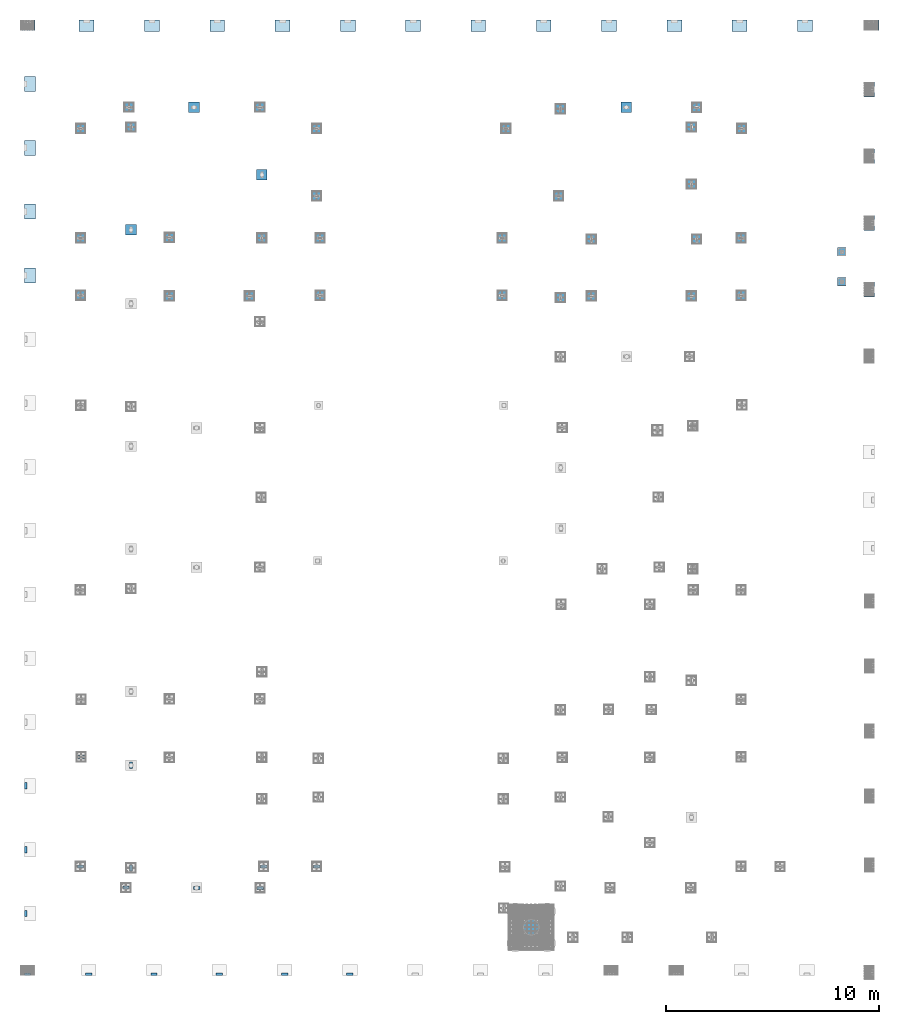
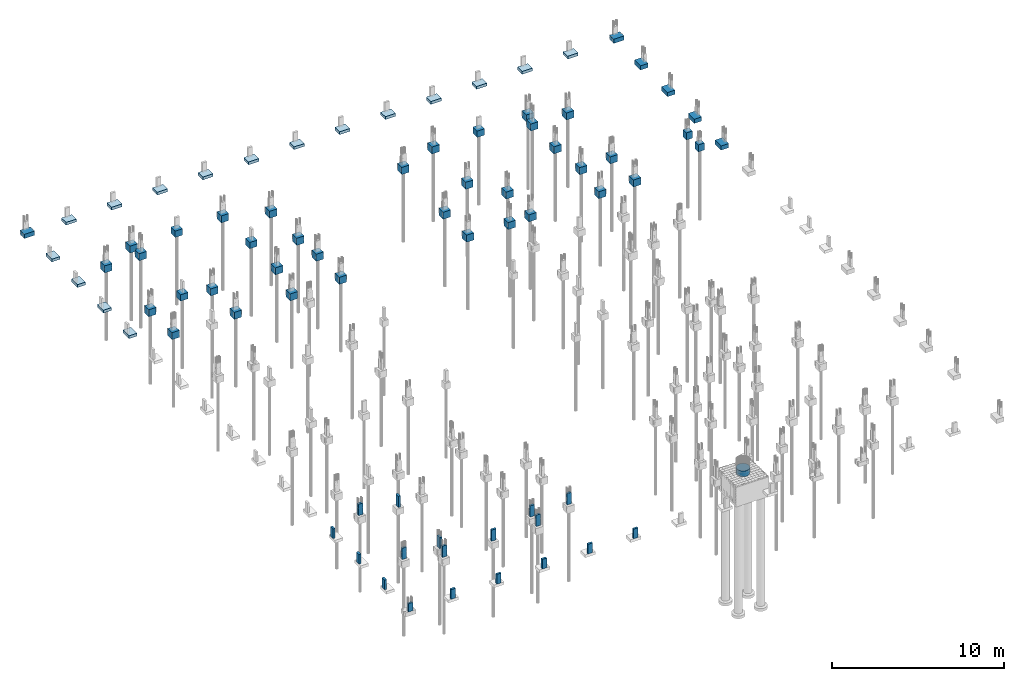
# One storey, part 2 of 119: 58 footings, 19 columns.
"""IFC4 building model written with IfcOpenShell, lengths in centimetres."""

from ifc_helpers import new_model, si_unit, derived_unit, frame, origin_with_axes, origin_2d_with_axis, place, context, project, spatial, rectangle, circle, extrude, faceted_brep, material, element, save


model = new_model("IFC4")

# Units and contexts
model_context = context("Model", 3, precision=1e-05, world=origin_with_axes(), identifier="Body")
ifc_project = project(units=[si_unit("LENGTHUNIT", "METRE", prefix="CENTI"), si_unit("VOLUMEUNIT", "CUBIC_METRE"), si_unit("AREAUNIT", "SQUARE_METRE"), si_unit("POWERUNIT", "WATT"), si_unit("LUMINOUSFLUXUNIT", "LUMEN"), si_unit("ELECTRICCURRENTUNIT", "AMPERE"), si_unit("PRESSUREUNIT", "PASCAL", prefix="KILO"), si_unit("MASSUNIT", "GRAM", prefix="KILO"), si_unit("PLANEANGLEUNIT", "RADIAN"), derived_unit("VOLUMETRICFLOWRATEUNIT", [(si_unit("LENGTHUNIT", "METRE"), 3), (si_unit("TIMEUNIT", "SECOND"), -1)])], contexts=[model_context])

# Site, building, storey
site_placement = place(None, frame((-4000.0, 0.0, 0.0), z_axis=(0.0, 0.0, 1.0), x_axis=(1.0, 0.0, 0.0)))
site = spatial("IfcSite", under=ifc_project, at=site_placement, Name="PADRÃO")
building_placement = place(site_placement, frame((0.0, 0.0, -14.0)))
building = spatial("IfcBuilding", under=site, at=building_placement, Name="CRECHE PRÉ-ESCOLA TIPO 2")
storey_placement = place(building_placement, origin_with_axes())
storey = spatial("IfcBuildingStorey", under=building, at=storey_placement, Name="FUNDAÇÃO", CompositionType="ELEMENT", Elevation=-14.0)

# Footings
ifc_material = material(Name="Concreto")
footing_1_placement = place(storey_placement, frame((16.5, 4470.5, -59.0), z_axis=(0.0, 0.0, 1.0), x_axis=(1.0, 0.0, 0.0)))
element("IfcFooting", 1, at=footing_1_placement, inside=storey, material=ifc_material, Name="P1", PredefinedType="PAD_FOOTING", context=model_context, shape_type="SolidModel", body=[
    faceted_brep([(35.0, 25.0, -30.0), (35.0, -25.0, -30.0), (-35.0, -25.0, -30.0), (-35.0, 25.0, -30.0), (-35.0, 25.0, 0.0), (-35.0, -25.0, 0.0), (35.0, -25.0, 0.0), (35.0, 25.0, 0.0)], [[[0, 1, 2, 3]], [[4, 5, 6, 7]], [[4, 3, 5]], [[3, 2, 5]], [[5, 2, 6]], [[2, 1, 6]], [[6, 1, 7]], [[1, 0, 7]], [[7, 0, 4]], [[0, 3, 4]]]),
])
for number, where, z_axis, x_axis, name in (
    (2, (2751.0, 4468.5, -69.0), (0.0, 0.0, 1.0), (1.0, 0.0, 0.0), "P10"),
    (3, (3058.0, 4468.12, -69.0), (0.0, 0.0, 1.0), (1.0, 0.0, 0.0), "P11"),
    (4, (3365.0, 4468.0, -69.0), (0.0, 0.0, 1.0), (1.0, 0.0, 0.0), "P12"),
    (5, (3672.0, 4468.0, -69.0), (0.0, 0.0, 1.0), (1.0, 0.0, 0.0), "P13"),
):
    element("IfcFooting", number, at=place(storey_placement, frame(where, z_axis=z_axis, x_axis=x_axis)), inside=storey, material=ifc_material, Name=name, PredefinedType="PAD_FOOTING", context=model_context, shape_type="SolidModel", body=[
        faceted_brep([(35.0, 27.0, -20.0), (35.0, -27.0, -20.0), (-35.0, -27.0, -20.0), (-35.0, 27.0, -20.0), (-35.0, 27.0, 0.0), (-35.0, -27.0, 0.0), (35.0, -27.0, 0.0), (35.0, 27.0, 0.0)], [[[0, 1, 2, 3]], [[4, 5, 6, 7]], [[4, 3, 5]], [[3, 2, 5]], [[5, 2, 6]], [[2, 1, 6]], [[6, 1, 7]], [[1, 0, 7]], [[7, 0, 4]], [[0, 3, 4]]]),
    ])
footing_2_placement = place(storey_placement, frame((3984.0, 4470.0, -59.0), z_axis=(0.0, 0.0, 1.0), x_axis=(1.0, 0.0, 0.0)))
element("IfcFooting", 6, at=footing_2_placement, inside=storey, material=ifc_material, Name="P14", PredefinedType="PAD_FOOTING", context=model_context, shape_type="SolidModel", body=[
    faceted_brep([(35.0, 25.0, -30.0), (35.0, -25.0, -30.0), (-35.0, -25.0, -30.0), (-35.0, 25.0, -30.0), (-35.0, 25.0, 0.0), (-35.0, -25.0, 0.0), (35.0, -25.0, 0.0), (35.0, 25.0, 0.0)], [[[0, 1, 2, 3]], [[4, 5, 6, 7]], [[4, 3, 5]], [[3, 2, 5]], [[5, 2, 6]], [[2, 1, 6]], [[6, 1, 7]], [[1, 0, 7]], [[7, 0, 4]], [[0, 3, 4]]]),
])
footing_3_placement = place(storey_placement, frame((28.5, 4194.5, -69.0), z_axis=(0.0, 0.0, 1.0), x_axis=(1.0, 0.0, 0.0)))
element("IfcFooting", 7, at=footing_3_placement, inside=storey, material=ifc_material, Name="P15", PredefinedType="PAD_FOOTING", context=model_context, shape_type="SolidModel", body=[
    faceted_brep([(-27.0, 35.0, -20.0), (27.0, 35.0, -20.0), (27.0, -35.0, -20.0), (-27.0, -35.0, -20.0), (-27.0, -35.0, 0.0), (27.0, -35.0, 0.0), (27.0, 35.0, 0.0), (-27.0, 35.0, 0.0)], [[[0, 1, 2, 3]], [[4, 5, 6, 7]], [[4, 3, 5]], [[3, 2, 5]], [[5, 2, 6]], [[2, 1, 6]], [[6, 1, 7]], [[1, 0, 7]], [[7, 0, 4]], [[0, 3, 4]]]),
])
footing_4_placement = place(storey_placement, frame((3974.0, 4168.5, -59.0), z_axis=(0.0, 0.0, 1.0), x_axis=(1.0, 0.0, 0.0)))
element("IfcFooting", 8, at=footing_4_placement, inside=storey, material=ifc_material, Name="P16", PredefinedType="PAD_FOOTING", context=model_context, shape_type="SolidModel", body=[
    faceted_brep([(25.0, -35.0, -30.0), (-25.0, -35.0, -30.0), (-25.0, 35.0, -30.0), (25.0, 35.0, -30.0), (25.0, 35.0, 0.0), (-25.0, 35.0, 0.0), (-25.0, -35.0, 0.0), (25.0, -35.0, 0.0)], [[[0, 1, 2, 3]], [[4, 5, 6, 7]], [[4, 3, 5]], [[3, 2, 5]], [[5, 2, 6]], [[2, 1, 6]], [[6, 1, 7]], [[1, 0, 7]], [[7, 0, 4]], [[0, 3, 4]]]),
])
footing_5_placement = place(storey_placement, frame((494.67, 4085.0, -80.0), z_axis=(0.0, 0.0, 1.0), x_axis=(1.0, 0.0, 0.0)))
element("IfcFooting", 9, at=footing_5_placement, inside=storey, material=ifc_material, Name="P17", context=model_context, shape_type="SolidModel", body=[
    faceted_brep([(-25.0, 25.0, -50.0), (25.0, 25.0, -50.0), (25.0, -25.0, -50.0), (-25.0, -25.0, -50.0), (-25.0, -25.0, 0.0), (25.0, -25.0, 0.0), (25.0, 25.0, 0.0), (-25.0, 25.0, 0.0)], [[[0, 1, 2, 3]], [[4, 5, 6, 7]], [[4, 3, 5]], [[3, 2, 5]], [[5, 2, 6]], [[2, 1, 6]], [[6, 1, 7]], [[1, 0, 7]], [[7, 0, 4]], [[0, 3, 4]]]),
])
footing_6_placement = place(storey_placement, frame((799.85, 4085.0, -80.0), z_axis=(0.0, 0.0, 1.0), x_axis=(1.0, 0.0, 0.0)))
element("IfcFooting", 10, at=footing_6_placement, inside=storey, material=ifc_material, Name="P18", context=model_context, shape_type="SolidModel", body=[
    faceted_brep([(25.0, -25.0, -45.0), (-25.0, -25.0, -45.0), (-25.0, 25.0, -45.0), (25.0, 25.0, -45.0), (25.0, 25.0, 0.0), (-25.0, 25.0, 0.0), (-25.0, -25.0, 0.0), (25.0, -25.0, 0.0)], [[[0, 1, 2, 3]], [[4, 5, 6, 7]], [[4, 3, 5]], [[3, 2, 5]], [[5, 2, 6]], [[2, 1, 6]], [[6, 1, 7]], [[1, 0, 7]], [[7, 0, 4]], [[0, 3, 4]]]),
])
footing_7_placement = place(storey_placement, frame((1109.71, 4085.0, -80.0), z_axis=(0.0, 0.0, 1.0), x_axis=(1.0, 0.0, 0.0)))
element("IfcFooting", 11, at=footing_7_placement, inside=storey, material=ifc_material, Name="P19", context=model_context, shape_type="SolidModel", body=[
    faceted_brep([(25.0, -25.0, -50.0), (-25.0, -25.0, -50.0), (-25.0, 25.0, -50.0), (25.0, 25.0, -50.0), (25.0, 25.0, 0.0), (-25.0, 25.0, 0.0), (-25.0, -25.0, 0.0), (25.0, -25.0, 0.0)], [[[0, 1, 2, 3]], [[4, 5, 6, 7]], [[4, 3, 5]], [[3, 2, 5]], [[5, 2, 6]], [[2, 1, 6]], [[6, 1, 7]], [[1, 0, 7]], [[7, 0, 4]], [[0, 3, 4]]]),
])
footing_8_placement = place(storey_placement, frame((295.0, 4468.5, -69.0), z_axis=(0.0, 0.0, 1.0), x_axis=(1.0, 0.0, 0.0)))
element("IfcFooting", 12, at=footing_8_placement, inside=storey, material=ifc_material, Name="P2", PredefinedType="PAD_FOOTING", context=model_context, shape_type="SolidModel", body=[
    faceted_brep([(35.0, 27.0, -20.0), (35.0, -27.0, -20.0), (-35.0, -27.0, -20.0), (-35.0, 27.0, -20.0), (-35.0, 27.0, 0.0), (-35.0, -27.0, 0.0), (35.0, -27.0, 0.0), (35.0, 27.0, 0.0)], [[[0, 1, 2, 3]], [[4, 5, 6, 7]], [[4, 3, 5]], [[3, 2, 5]], [[5, 2, 6]], [[2, 1, 6]], [[6, 1, 7]], [[1, 0, 7]], [[7, 0, 4]], [[0, 3, 4]]]),
])
footing_9_placement = place(storey_placement, frame((2522.5, 4077.02, -80.0), z_axis=(0.0, 0.0, 1.0), x_axis=(1.0, 0.0, 0.0)))
element("IfcFooting", 13, at=footing_9_placement, inside=storey, material=ifc_material, Name="P20", context=model_context, shape_type="SolidModel", body=[
    faceted_brep([(25.0, 25.0, -50.0), (25.0, -25.0, -50.0), (-25.0, -25.0, -50.0), (-25.0, 25.0, -50.0), (-25.0, 25.0, 0.0), (-25.0, -25.0, 0.0), (25.0, -25.0, 0.0), (25.0, 25.0, 0.0)], [[[0, 1, 2, 3]], [[4, 5, 6, 7]], [[4, 3, 5]], [[3, 2, 5]], [[5, 2, 6]], [[2, 1, 6]], [[6, 1, 7]], [[1, 0, 7]], [[7, 0, 4]], [[0, 3, 4]]]),
])
footing_10_placement = place(storey_placement, frame((2831.98, 4085.02, -80.0), z_axis=(0.0, 0.0, 1.0), x_axis=(1.0, 0.0, 0.0)))
element("IfcFooting", 14, at=footing_10_placement, inside=storey, material=ifc_material, Name="P21", context=model_context, shape_type="SolidModel", body=[
    faceted_brep([(25.0, -25.0, -45.0), (-25.0, -25.0, -45.0), (-25.0, 25.0, -45.0), (25.0, 25.0, -45.0), (25.0, 25.0, 0.0), (-25.0, 25.0, 0.0), (-25.0, -25.0, 0.0), (25.0, -25.0, 0.0)], [[[0, 1, 2, 3]], [[4, 5, 6, 7]], [[4, 3, 5]], [[3, 2, 5]], [[5, 2, 6]], [[2, 1, 6]], [[6, 1, 7]], [[1, 0, 7]], [[7, 0, 4]], [[0, 3, 4]]]),
])
for number, where, z_axis, x_axis, name in (
    (15, (3163.5, 4084.02, -80.0), (0.0, 0.0, 1.0), (1.0, 0.0, 0.0), "P22"),
    (16, (267.0, 3985.0, -80.0), (0.0, 0.0, 1.0), (1.0, 0.0, 0.0), "P23"),
):
    element("IfcFooting", number, at=place(storey_placement, frame(where, z_axis=z_axis, x_axis=x_axis)), inside=storey, material=ifc_material, Name=name, context=model_context, shape_type="SolidModel", body=[
        faceted_brep([(25.0, -25.0, -50.0), (-25.0, -25.0, -50.0), (-25.0, 25.0, -50.0), (25.0, 25.0, -50.0), (25.0, 25.0, 0.0), (-25.0, 25.0, 0.0), (-25.0, -25.0, 0.0), (25.0, -25.0, 0.0)], [[[0, 1, 2, 3]], [[4, 5, 6, 7]], [[4, 3, 5]], [[3, 2, 5]], [[5, 2, 6]], [[2, 1, 6]], [[6, 1, 7]], [[1, 0, 7]], [[7, 0, 4]], [[0, 3, 4]]]),
    ])
footing_11_placement = place(storey_placement, frame((503.67, 3991.5, -80.0), z_axis=(0.0, 0.0, 1.0), x_axis=(1.0, 0.0, 0.0)))
element("IfcFooting", 17, at=footing_11_placement, inside=storey, material=ifc_material, Name="P24", context=model_context, shape_type="SolidModel", body=[
    faceted_brep([(25.0, 25.0, -50.0), (25.0, -25.0, -50.0), (-25.0, -25.0, -50.0), (-25.0, 25.0, -50.0), (-25.0, 25.0, 0.0), (-25.0, -25.0, 0.0), (25.0, -25.0, 0.0), (25.0, 25.0, 0.0)], [[[0, 1, 2, 3]], [[4, 5, 6, 7]], [[4, 3, 5]], [[3, 2, 5]], [[5, 2, 6]], [[2, 1, 6]], [[6, 1, 7]], [[1, 0, 7]], [[7, 0, 4]], [[0, 3, 4]]]),
])
for number, where, z_axis, x_axis, name in (
    (18, (1376.84, 3985.0, -80.0), (0.0, 0.0, 1.0), (1.0, 0.0, 0.0), "P25"),
    (19, (2266.76, 3985.0, -80.0), (0.0, 0.0, 1.0), (1.0, 0.0, 0.0), "P26"),
):
    element("IfcFooting", number, at=place(storey_placement, frame(where, z_axis=z_axis, x_axis=x_axis)), inside=storey, material=ifc_material, Name=name, context=model_context, shape_type="SolidModel", body=[
        faceted_brep([(25.0, -25.0, -50.0), (-25.0, -25.0, -50.0), (-25.0, 25.0, -50.0), (25.0, 25.0, -50.0), (25.0, 25.0, 0.0), (-25.0, 25.0, 0.0), (-25.0, -25.0, 0.0), (25.0, -25.0, 0.0)], [[[0, 1, 2, 3]], [[4, 5, 6, 7]], [[4, 3, 5]], [[3, 2, 5]], [[5, 2, 6]], [[2, 1, 6]], [[6, 1, 7]], [[1, 0, 7]], [[7, 0, 4]], [[0, 3, 4]]]),
    ])
footing_12_placement = place(storey_placement, frame((3138.5, 3991.51, -80.0), z_axis=(0.0, 0.0, 1.0), x_axis=(1.0, 0.0, 0.0)))
element("IfcFooting", 20, at=footing_12_placement, inside=storey, material=ifc_material, Name="P27", context=model_context, shape_type="SolidModel", body=[
    faceted_brep([(25.0, 25.0, -50.0), (25.0, -25.0, -50.0), (-25.0, -25.0, -50.0), (-25.0, 25.0, -50.0), (-25.0, 25.0, 0.0), (-25.0, -25.0, 0.0), (25.0, -25.0, 0.0), (25.0, 25.0, 0.0)], [[[0, 1, 2, 3]], [[4, 5, 6, 7]], [[4, 3, 5]], [[3, 2, 5]], [[5, 2, 6]], [[2, 1, 6]], [[6, 1, 7]], [[1, 0, 7]], [[7, 0, 4]], [[0, 3, 4]]]),
])
footing_13_placement = place(storey_placement, frame((3375.0, 3985.01, -80.0), z_axis=(0.0, 0.0, 1.0), x_axis=(1.0, 0.0, 0.0)))
element("IfcFooting", 21, at=footing_13_placement, inside=storey, material=ifc_material, Name="P28", context=model_context, shape_type="SolidModel", body=[
    faceted_brep([(25.0, -25.0, -50.0), (-25.0, -25.0, -50.0), (-25.0, 25.0, -50.0), (25.0, 25.0, -50.0), (25.0, 25.0, 0.0), (-25.0, 25.0, 0.0), (-25.0, -25.0, 0.0), (25.0, -25.0, 0.0)], [[[0, 1, 2, 3]], [[4, 5, 6, 7]], [[4, 3, 5]], [[3, 2, 5]], [[5, 2, 6]], [[2, 1, 6]], [[6, 1, 7]], [[1, 0, 7]], [[7, 0, 4]], [[0, 3, 4]]]),
])
footing_14_placement = place(storey_placement, frame((28.5, 3894.5, -69.0), z_axis=(0.0, 0.0, 1.0), x_axis=(1.0, 0.0, 0.0)))
element("IfcFooting", 22, at=footing_14_placement, inside=storey, material=ifc_material, Name="P29", PredefinedType="PAD_FOOTING", context=model_context, shape_type="SolidModel", body=[
    faceted_brep([(-27.0, 35.0, -20.0), (27.0, 35.0, -20.0), (27.0, -35.0, -20.0), (-27.0, -35.0, -20.0), (-27.0, -35.0, 0.0), (27.0, -35.0, 0.0), (27.0, 35.0, 0.0), (-27.0, 35.0, 0.0)], [[[0, 1, 2, 3]], [[4, 5, 6, 7]], [[4, 3, 5]], [[3, 2, 5]], [[5, 2, 6]], [[2, 1, 6]], [[6, 1, 7]], [[1, 0, 7]], [[7, 0, 4]], [[0, 3, 4]]]),
])
footing_15_placement = place(storey_placement, frame((602.0, 4468.45, -69.0), z_axis=(0.0, 0.0, 1.0), x_axis=(1.0, 0.0, 0.0)))
element("IfcFooting", 23, at=footing_15_placement, inside=storey, material=ifc_material, Name="P3", PredefinedType="PAD_FOOTING", context=model_context, shape_type="SolidModel", body=[
    faceted_brep([(35.0, 27.0, -20.0), (35.0, -27.0, -20.0), (-35.0, -27.0, -20.0), (-35.0, 27.0, -20.0), (-35.0, 27.0, 0.0), (-35.0, -27.0, 0.0), (35.0, -27.0, 0.0), (35.0, 27.0, 0.0)], [[[0, 1, 2, 3]], [[4, 5, 6, 7]], [[4, 3, 5]], [[3, 2, 5]], [[5, 2, 6]], [[2, 1, 6]], [[6, 1, 7]], [[1, 0, 7]], [[7, 0, 4]], [[0, 3, 4]]]),
])
footing_16_placement = place(storey_placement, frame((3974.0, 3855.0, -59.0), z_axis=(0.0, 0.0, 1.0), x_axis=(1.0, 0.0, 0.0)))
element("IfcFooting", 24, at=footing_16_placement, inside=storey, material=ifc_material, Name="P30", PredefinedType="PAD_FOOTING", context=model_context, shape_type="SolidModel", body=[
    faceted_brep([(25.0, -35.0, -30.0), (-25.0, -35.0, -30.0), (-25.0, 35.0, -30.0), (25.0, 35.0, -30.0), (25.0, 35.0, 0.0), (-25.0, 35.0, 0.0), (-25.0, -35.0, 0.0), (25.0, -35.0, 0.0)], [[[0, 1, 2, 3]], [[4, 5, 6, 7]], [[4, 3, 5]], [[3, 2, 5]], [[5, 2, 6]], [[2, 1, 6]], [[6, 1, 7]], [[1, 0, 7]], [[7, 0, 4]], [[0, 3, 4]]]),
])
footing_17_placement = place(storey_placement, frame((1118.72, 3767.78, -80.0), z_axis=(0.0, 0.0, 1.0), x_axis=(1.0, 0.0, 0.0)))
element("IfcFooting", 25, at=footing_17_placement, inside=storey, material=ifc_material, Name="P31", context=model_context, shape_type="SolidModel", body=[
    faceted_brep([(25.0, 25.0, -45.0), (25.0, -25.0, -45.0), (-25.0, -25.0, -45.0), (-25.0, 25.0, -45.0), (-25.0, 25.0, 0.0), (-25.0, -25.0, 0.0), (25.0, -25.0, 0.0), (25.0, 25.0, 0.0)], [[[0, 1, 2, 3]], [[4, 5, 6, 7]], [[4, 3, 5]], [[3, 2, 5]], [[5, 2, 6]], [[2, 1, 6]], [[6, 1, 7]], [[1, 0, 7]], [[7, 0, 4]], [[0, 3, 4]]]),
])
footing_18_placement = place(storey_placement, frame((3139.43, 3723.26, -80.0), z_axis=(0.0, 0.0, 1.0), x_axis=(1.0, 0.0, 0.0)))
element("IfcFooting", 26, at=footing_18_placement, inside=storey, material=ifc_material, Name="P32", context=model_context, shape_type="SolidModel", body=[
    faceted_brep([(25.0, 25.0, -50.0), (25.0, -25.0, -50.0), (-25.0, -25.0, -50.0), (-25.0, 25.0, -50.0), (-25.0, 25.0, 0.0), (-25.0, -25.0, 0.0), (25.0, -25.0, 0.0), (25.0, 25.0, 0.0)], [[[0, 1, 2, 3]], [[4, 5, 6, 7]], [[4, 3, 5]], [[3, 2, 5]], [[5, 2, 6]], [[2, 1, 6]], [[6, 1, 7]], [[1, 0, 7]], [[7, 0, 4]], [[0, 3, 4]]]),
])
footing_19_placement = place(storey_placement, frame((1376.84, 3667.5, -80.0), z_axis=(0.0, 0.0, 1.0), x_axis=(1.0, 0.0, 0.0)))
element("IfcFooting", 27, at=footing_19_placement, inside=storey, material=ifc_material, Name="P33", context=model_context, shape_type="SolidModel", body=[
    faceted_brep([(-25.0, 25.0, -50.0), (25.0, 25.0, -50.0), (25.0, -25.0, -50.0), (-25.0, -25.0, -50.0), (-25.0, -25.0, 0.0), (25.0, -25.0, 0.0), (25.0, 25.0, 0.0), (-25.0, 25.0, 0.0)], [[[0, 1, 2, 3]], [[4, 5, 6, 7]], [[4, 3, 5]], [[3, 2, 5]], [[5, 2, 6]], [[2, 1, 6]], [[6, 1, 7]], [[1, 0, 7]], [[7, 0, 4]], [[0, 3, 4]]]),
])
footing_20_placement = place(storey_placement, frame((2514.5, 3667.75, -80.0), z_axis=(0.0, 0.0, 1.0), x_axis=(1.0, 0.0, 0.0)))
element("IfcFooting", 28, at=footing_20_placement, inside=storey, material=ifc_material, Name="P34", context=model_context, shape_type="SolidModel", body=[
    faceted_brep([(25.0, -25.0, -50.0), (-25.0, -25.0, -50.0), (-25.0, 25.0, -50.0), (25.0, 25.0, -50.0), (25.0, 25.0, 0.0), (-25.0, 25.0, 0.0), (-25.0, -25.0, 0.0), (25.0, -25.0, 0.0)], [[[0, 1, 2, 3]], [[4, 5, 6, 7]], [[4, 3, 5]], [[3, 2, 5]], [[5, 2, 6]], [[2, 1, 6]], [[6, 1, 7]], [[1, 0, 7]], [[7, 0, 4]], [[0, 3, 4]]]),
])
footing_21_placement = place(storey_placement, frame((28.5, 3594.5, -69.0), z_axis=(0.0, 0.0, 1.0), x_axis=(1.0, 0.0, 0.0)))
element("IfcFooting", 29, at=footing_21_placement, inside=storey, material=ifc_material, Name="P35", PredefinedType="PAD_FOOTING", context=model_context, shape_type="SolidModel", body=[
    faceted_brep([(-27.0, 35.0, -20.0), (27.0, 35.0, -20.0), (27.0, -35.0, -20.0), (-27.0, -35.0, -20.0), (-27.0, -35.0, 0.0), (27.0, -35.0, 0.0), (27.0, 35.0, 0.0), (-27.0, 35.0, 0.0)], [[[0, 1, 2, 3]], [[4, 5, 6, 7]], [[4, 3, 5]], [[3, 2, 5]], [[5, 2, 6]], [[2, 1, 6]], [[6, 1, 7]], [[1, 0, 7]], [[7, 0, 4]], [[0, 3, 4]]]),
])
footing_22_placement = place(storey_placement, frame((267.01, 3470.0, -80.0), z_axis=(0.0, 0.0, 1.0), x_axis=(1.0, 0.0, 0.0)))
element("IfcFooting", 30, at=footing_22_placement, inside=storey, material=ifc_material, Name="P36", context=model_context, shape_type="SolidModel", body=[
    faceted_brep([(25.0, -25.0, -50.0), (-25.0, -25.0, -50.0), (-25.0, 25.0, -50.0), (25.0, 25.0, -50.0), (25.0, 25.0, 0.0), (-25.0, 25.0, 0.0), (-25.0, -25.0, 0.0), (25.0, -25.0, 0.0)], [[[0, 1, 2, 3]], [[4, 5, 6, 7]], [[4, 3, 5]], [[3, 2, 5]], [[5, 2, 6]], [[2, 1, 6]], [[6, 1, 7]], [[1, 0, 7]], [[7, 0, 4]], [[0, 3, 4]]]),
])
footing_23_placement = place(storey_placement, frame((503.67, 3508.5, -80.0), z_axis=(0.0, 0.0, 1.0), x_axis=(1.0, 0.0, 0.0)))
element("IfcFooting", 31, at=footing_23_placement, inside=storey, material=ifc_material, Name="P37", context=model_context, shape_type="SolidModel", body=[
    faceted_brep([(25.0, 25.0, -45.0), (25.0, -25.0, -45.0), (-25.0, -25.0, -45.0), (-25.0, 25.0, -45.0), (-25.0, 25.0, 0.0), (-25.0, -25.0, 0.0), (25.0, -25.0, 0.0), (25.0, 25.0, 0.0)], [[[0, 1, 2, 3]], [[4, 5, 6, 7]], [[4, 3, 5]], [[3, 2, 5]], [[5, 2, 6]], [[2, 1, 6]], [[6, 1, 7]], [[1, 0, 7]], [[7, 0, 4]], [[0, 3, 4]]]),
])
footing_24_placement = place(storey_placement, frame((3974.0, 3541.5, -59.0), z_axis=(0.0, 0.0, 1.0), x_axis=(1.0, 0.0, 0.0)))
element("IfcFooting", 32, at=footing_24_placement, inside=storey, material=ifc_material, Name="P38", PredefinedType="PAD_FOOTING", context=model_context, shape_type="SolidModel", body=[
    faceted_brep([(25.0, -35.0, -30.0), (-25.0, -35.0, -30.0), (-25.0, 35.0, -30.0), (25.0, 35.0, -30.0), (25.0, 35.0, 0.0), (-25.0, 35.0, 0.0), (-25.0, -35.0, 0.0), (25.0, -35.0, 0.0)], [[[0, 1, 2, 3]], [[4, 5, 6, 7]], [[4, 3, 5]], [[3, 2, 5]], [[5, 2, 6]], [[2, 1, 6]], [[6, 1, 7]], [[1, 0, 7]], [[7, 0, 4]], [[0, 3, 4]]]),
])
footing_25_placement = place(storey_placement, frame((685.0, 3472.49, -80.0), z_axis=(0.0, 0.0, 1.0), x_axis=(1.0, 0.0, 0.0)))
element("IfcFooting", 33, at=footing_25_placement, inside=storey, material=ifc_material, Name="P39", context=model_context, shape_type="SolidModel", body=[
    faceted_brep([(25.0, -25.0, -50.0), (-25.0, -25.0, -50.0), (-25.0, 25.0, -50.0), (25.0, 25.0, -50.0), (25.0, 25.0, 0.0), (-25.0, 25.0, 0.0), (-25.0, -25.0, 0.0), (25.0, -25.0, 0.0)], [[[0, 1, 2, 3]], [[4, 5, 6, 7]], [[4, 3, 5]], [[3, 2, 5]], [[5, 2, 6]], [[2, 1, 6]], [[6, 1, 7]], [[1, 0, 7]], [[7, 0, 4]], [[0, 3, 4]]]),
])
footing_26_placement = place(storey_placement, frame((909.0, 4468.5, -69.0), z_axis=(0.0, 0.0, 1.0), x_axis=(1.0, 0.0, 0.0)))
element("IfcFooting", 34, at=footing_26_placement, inside=storey, material=ifc_material, Name="P4", PredefinedType="PAD_FOOTING", context=model_context, shape_type="SolidModel", body=[
    faceted_brep([(35.0, 27.0, -20.0), (35.0, -27.0, -20.0), (-35.0, -27.0, -20.0), (-35.0, 27.0, -20.0), (-35.0, 27.0, 0.0), (-35.0, -27.0, 0.0), (35.0, -27.0, 0.0), (35.0, 27.0, 0.0)], [[[0, 1, 2, 3]], [[4, 5, 6, 7]], [[4, 3, 5]], [[3, 2, 5]], [[5, 2, 6]], [[2, 1, 6]], [[6, 1, 7]], [[1, 0, 7]], [[7, 0, 4]], [[0, 3, 4]]]),
])
footing_27_placement = place(storey_placement, frame((1118.72, 3470.0, -80.0), z_axis=(0.0, 0.0, 1.0), x_axis=(1.0, 0.0, 0.0)))
element("IfcFooting", 35, at=footing_27_placement, inside=storey, material=ifc_material, Name="P40", context=model_context, shape_type="SolidModel", body=[
    faceted_brep([(25.0, 25.0, -50.0), (25.0, -25.0, -50.0), (-25.0, -25.0, -50.0), (-25.0, 25.0, -50.0), (-25.0, 25.0, 0.0), (-25.0, -25.0, 0.0), (25.0, -25.0, 0.0), (25.0, 25.0, 0.0)], [[[0, 1, 2, 3]], [[4, 5, 6, 7]], [[4, 3, 5]], [[3, 2, 5]], [[5, 2, 6]], [[2, 1, 6]], [[6, 1, 7]], [[1, 0, 7]], [[7, 0, 4]], [[0, 3, 4]]]),
])
for number, where, z_axis, x_axis, name in (
    (36, (1392.84, 3470.02, -80.0), (0.0, 0.0, 1.0), (1.0, 0.0, 0.0), "P41"),
    (37, (2248.76, 3470.02, -80.0), (0.0, 0.0, 1.0), (1.0, 0.0, 0.0), "P42"),
):
    element("IfcFooting", number, at=place(storey_placement, frame(where, z_axis=z_axis, x_axis=x_axis)), inside=storey, material=ifc_material, Name=name, context=model_context, shape_type="SolidModel", body=[
        faceted_brep([(25.0, -25.0, -50.0), (-25.0, -25.0, -50.0), (-25.0, 25.0, -50.0), (25.0, 25.0, -50.0), (25.0, 25.0, 0.0), (-25.0, 25.0, 0.0), (-25.0, -25.0, 0.0), (25.0, -25.0, 0.0)], [[[0, 1, 2, 3]], [[4, 5, 6, 7]], [[4, 3, 5]], [[3, 2, 5]], [[5, 2, 6]], [[2, 1, 6]], [[6, 1, 7]], [[1, 0, 7]], [[7, 0, 4]], [[0, 3, 4]]]),
    ])
for number, where, z_axis, x_axis, name in (
    (38, (2668.0, 3464.58, -80.0), (0.0, 0.0, 1.0), (1.0, 0.0, 0.0), "P43"),
    (39, (3163.5, 3464.58, -80.0), (0.0, 0.0, 1.0), (1.0, 0.0, 0.0), "P44"),
):
    element("IfcFooting", number, at=place(storey_placement, frame(where, z_axis=z_axis, x_axis=x_axis)), inside=storey, material=ifc_material, Name=name, context=model_context, shape_type="SolidModel", body=[
        faceted_brep([(25.0, 25.0, -50.0), (25.0, -25.0, -50.0), (-25.0, -25.0, -50.0), (-25.0, 25.0, -50.0), (-25.0, 25.0, 0.0), (-25.0, -25.0, 0.0), (25.0, -25.0, 0.0), (25.0, 25.0, 0.0)], [[[0, 1, 2, 3]], [[4, 5, 6, 7]], [[4, 3, 5]], [[3, 2, 5]], [[5, 2, 6]], [[2, 1, 6]], [[6, 1, 7]], [[1, 0, 7]], [[7, 0, 4]], [[0, 3, 4]]]),
    ])
footing_28_placement = place(storey_placement, frame((3372.5, 3470.02, -80.0), z_axis=(0.0, 0.0, 1.0), x_axis=(1.0, 0.0, 0.0)))
element("IfcFooting", 40, at=footing_28_placement, inside=storey, material=ifc_material, Name="P45", context=model_context, shape_type="SolidModel", body=[
    faceted_brep([(25.0, -25.0, -50.0), (-25.0, -25.0, -50.0), (-25.0, 25.0, -50.0), (25.0, 25.0, -50.0), (25.0, 25.0, 0.0), (-25.0, 25.0, 0.0), (-25.0, -25.0, 0.0), (25.0, -25.0, 0.0)], [[[0, 1, 2, 3]], [[4, 5, 6, 7]], [[4, 3, 5]], [[3, 2, 5]], [[5, 2, 6]], [[2, 1, 6]], [[6, 1, 7]], [[1, 0, 7]], [[7, 0, 4]], [[0, 3, 4]]]),
])
footing_29_placement = place(storey_placement, frame((28.5, 3294.5, -69.0), z_axis=(0.0, 0.0, 1.0), x_axis=(1.0, 0.0, 0.0)))
element("IfcFooting", 41, at=footing_29_placement, inside=storey, material=ifc_material, Name="P46", PredefinedType="PAD_FOOTING", context=model_context, shape_type="SolidModel", body=[
    faceted_brep([(-27.0, 35.0, -20.0), (27.0, 35.0, -20.0), (27.0, -35.0, -20.0), (-27.0, -35.0, -20.0), (-27.0, -35.0, 0.0), (27.0, -35.0, 0.0), (27.0, 35.0, 0.0), (-27.0, 35.0, 0.0)], [[[0, 1, 2, 3]], [[4, 5, 6, 7]], [[4, 3, 5]], [[3, 2, 5]], [[5, 2, 6]], [[2, 1, 6]], [[6, 1, 7]], [[1, 0, 7]], [[7, 0, 4]], [[0, 3, 4]]]),
])
for number, where, z_axis, x_axis, name in (
    (42, (267.0, 3200.5, -80.0), (0.0, 0.0, 1.0), (1.0, 0.0, 0.0), "P47"),
    (43, (685.0, 3197.49, -80.0), (0.0, 0.0, 1.0), (1.0, 0.0, 0.0), "P49"),
):
    element("IfcFooting", number, at=place(storey_placement, frame(where, z_axis=z_axis, x_axis=x_axis)), inside=storey, material=ifc_material, Name=name, context=model_context, shape_type="SolidModel", body=[
        faceted_brep([(25.0, -25.0, -50.0), (-25.0, -25.0, -50.0), (-25.0, 25.0, -50.0), (25.0, 25.0, -50.0), (25.0, 25.0, 0.0), (-25.0, 25.0, 0.0), (-25.0, -25.0, 0.0), (25.0, -25.0, 0.0)], [[[0, 1, 2, 3]], [[4, 5, 6, 7]], [[4, 3, 5]], [[3, 2, 5]], [[5, 2, 6]], [[2, 1, 6]], [[6, 1, 7]], [[1, 0, 7]], [[7, 0, 4]], [[0, 3, 4]]]),
    ])
footing_30_placement = place(storey_placement, frame((1216.0, 4468.5, -69.0), z_axis=(0.0, 0.0, 1.0), x_axis=(1.0, 0.0, 0.0)))
element("IfcFooting", 44, at=footing_30_placement, inside=storey, material=ifc_material, Name="P5", PredefinedType="PAD_FOOTING", context=model_context, shape_type="SolidModel", body=[
    faceted_brep([(35.0, 27.0, -20.0), (35.0, -27.0, -20.0), (-35.0, -27.0, -20.0), (-35.0, 27.0, -20.0), (-35.0, 27.0, 0.0), (-35.0, -27.0, 0.0), (35.0, -27.0, 0.0), (35.0, 27.0, 0.0)], [[[0, 1, 2, 3]], [[4, 5, 6, 7]], [[4, 3, 5]], [[3, 2, 5]], [[5, 2, 6]], [[2, 1, 6]], [[6, 1, 7]], [[1, 0, 7]], [[7, 0, 4]], [[0, 3, 4]]]),
])
for number, where, z_axis, x_axis, name in (
    (45, (1061.0, 3197.49, -80.0), (0.0, 0.0, 1.0), (1.0, 0.0, 0.0), "P50"),
    (46, (1393.25, 3200.02, -80.0), (0.0, 0.0, 1.0), (1.0, 0.0, 0.0), "P51"),
    (47, (2248.76, 3200.02, -80.0), (0.0, 0.0, 1.0), (1.0, 0.0, 0.0), "P52"),
):
    element("IfcFooting", number, at=place(storey_placement, frame(where, z_axis=z_axis, x_axis=x_axis)), inside=storey, material=ifc_material, Name=name, context=model_context, shape_type="SolidModel", body=[
        faceted_brep([(25.0, -25.0, -50.0), (-25.0, -25.0, -50.0), (-25.0, 25.0, -50.0), (25.0, 25.0, -50.0), (25.0, 25.0, 0.0), (-25.0, 25.0, 0.0), (-25.0, -25.0, 0.0), (25.0, -25.0, 0.0)], [[[0, 1, 2, 3]], [[4, 5, 6, 7]], [[4, 3, 5]], [[3, 2, 5]], [[5, 2, 6]], [[2, 1, 6]], [[6, 1, 7]], [[1, 0, 7]], [[7, 0, 4]], [[0, 3, 4]]]),
    ])
footing_31_placement = place(storey_placement, frame((2523.5, 3189.52, -80.0), z_axis=(0.0, 0.0, 1.0), x_axis=(1.0, 0.0, 0.0)))
element("IfcFooting", 48, at=footing_31_placement, inside=storey, material=ifc_material, Name="P53", context=model_context, shape_type="SolidModel", body=[
    faceted_brep([(25.0, 25.0, -50.0), (25.0, -25.0, -50.0), (-25.0, -25.0, -50.0), (-25.0, 25.0, -50.0), (-25.0, 25.0, 0.0), (-25.0, -25.0, 0.0), (25.0, -25.0, 0.0), (25.0, 25.0, 0.0)], [[[0, 1, 2, 3]], [[4, 5, 6, 7]], [[4, 3, 5]], [[3, 2, 5]], [[5, 2, 6]], [[2, 1, 6]], [[6, 1, 7]], [[1, 0, 7]], [[7, 0, 4]], [[0, 3, 4]]]),
])
for number, where, z_axis, x_axis, name in (
    (49, (2668.0, 3197.52, -80.0), (0.0, 0.0, 1.0), (1.0, 0.0, 0.0), "P54"),
    (50, (3138.5, 3197.52, -80.0), (0.0, 0.0, 1.0), (1.0, 0.0, 0.0), "P55"),
    (51, (3372.5, 3200.02, -80.0), (0.0, 0.0, 1.0), (1.0, 0.0, 0.0), "P56"),
):
    element("IfcFooting", number, at=place(storey_placement, frame(where, z_axis=z_axis, x_axis=x_axis)), inside=storey, material=ifc_material, Name=name, context=model_context, shape_type="SolidModel", body=[
        faceted_brep([(25.0, -25.0, -50.0), (-25.0, -25.0, -50.0), (-25.0, 25.0, -50.0), (25.0, 25.0, -50.0), (25.0, 25.0, 0.0), (-25.0, 25.0, 0.0), (-25.0, -25.0, 0.0), (25.0, -25.0, 0.0)], [[[0, 1, 2, 3]], [[4, 5, 6, 7]], [[4, 3, 5]], [[3, 2, 5]], [[5, 2, 6]], [[2, 1, 6]], [[6, 1, 7]], [[1, 0, 7]], [[7, 0, 4]], [[0, 3, 4]]]),
    ])
footing_32_placement = place(storey_placement, frame((3974.0, 3228.0, -59.0), z_axis=(0.0, 0.0, 1.0), x_axis=(1.0, 0.0, 0.0)))
element("IfcFooting", 52, at=footing_32_placement, inside=storey, material=ifc_material, Name="P57", PredefinedType="PAD_FOOTING", context=model_context, shape_type="SolidModel", body=[
    faceted_brep([(25.0, -35.0, -30.0), (-25.0, -35.0, -30.0), (-25.0, 35.0, -30.0), (25.0, 35.0, -30.0), (25.0, 35.0, 0.0), (-25.0, 35.0, 0.0), (-25.0, -35.0, 0.0), (25.0, -35.0, 0.0)], [[[0, 1, 2, 3]], [[4, 5, 6, 7]], [[4, 3, 5]], [[3, 2, 5]], [[5, 2, 6]], [[2, 1, 6]], [[6, 1, 7]], [[1, 0, 7]], [[7, 0, 4]], [[0, 3, 4]]]),
])
for number, where, z_axis, x_axis, name in (
    (53, (1523.0, 4468.33, -69.0), (0.0, 0.0, 1.0), (1.0, 0.0, 0.0), "P6"),
    (54, (1830.0, 4468.5, -69.0), (0.0, 0.0, 1.0), (1.0, 0.0, 0.0), "P7"),
    (55, (2135.99, 4468.5, -69.0), (0.0, 0.0, 1.0), (1.0, 0.0, 0.0), "P8"),
    (56, (2444.0, 4468.19, -69.0), (0.0, 0.0, 1.0), (1.0, 0.0, 0.0), "P9"),
):
    element("IfcFooting", number, at=place(storey_placement, frame(where, z_axis=z_axis, x_axis=x_axis)), inside=storey, material=ifc_material, Name=name, PredefinedType="PAD_FOOTING", context=model_context, shape_type="SolidModel", body=[
        faceted_brep([(35.0, 27.0, -20.0), (35.0, -27.0, -20.0), (-35.0, -27.0, -20.0), (-35.0, 27.0, -20.0), (-35.0, 27.0, 0.0), (-35.0, -27.0, 0.0), (35.0, -27.0, 0.0), (35.0, 27.0, 0.0)], [[[0, 1, 2, 3]], [[4, 5, 6, 7]], [[4, 3, 5]], [[3, 2, 5]], [[5, 2, 6]], [[2, 1, 6]], [[6, 1, 7]], [[1, 0, 7]], [[7, 0, 4]], [[0, 3, 4]]]),
    ])
for number, where, z_axis, x_axis, name in (
    (57, (3845.84, 3405.02, -40.0), (0.0, 0.0, 1.0), (1.0, 0.0, 0.0), "PM1"),
    (58, (3845.84, 3265.02, -40.0), (0.0, 0.0, 1.0), (1.0, 0.0, 0.0), "PM2"),
):
    element("IfcFooting", number, at=place(storey_placement, frame(where, z_axis=z_axis, x_axis=x_axis)), inside=storey, material=ifc_material, Name=name, context=model_context, shape_type="SolidModel", body=[
        faceted_brep([(20.0, -20.0, -50.0), (-20.0, -20.0, -50.0), (-20.0, 20.0, -50.0), (20.0, 20.0, -50.0), (20.0, 20.0, 0.0), (-20.0, 20.0, 0.0), (-20.0, -20.0, 0.0), (20.0, -20.0, 0.0)], [[[0, 1, 2, 3]], [[4, 5, 6, 7]], [[4, 3, 5]], [[3, 2, 5]], [[5, 2, 6]], [[2, 1, 6]], [[6, 1, 7]], [[1, 0, 7]], [[7, 0, 4]], [[0, 3, 4]]]),
    ])

# Columns
column_1_placement = place(storey_placement, frame((269.5, 1030.5, 0.0), z_axis=(0.0, 0.0, 1.0), x_axis=(1.0, 0.0, 0.0)))
element("IfcColumn", 59, at=column_1_placement, inside=storey, material=ifc_material, Name="P116", context=model_context, shape_type="SolidModel", body=[
    extrude(rectangle(XDim=17.0, YDim=30.0, at=origin_2d_with_axis()), frame((0.0, 0.0, -80.0), z_axis=(0.0, 0.0, 1.0), x_axis=(0.0, -1.0, 0.0)), (0.0, 0.0, 1.0), 80.0),
])
column_2_placement = place(storey_placement, frame((503.57, 991.51, 0.0), z_axis=(0.0, 0.0, 1.0), x_axis=(1.0, 0.0, 0.0)))
element("IfcColumn", 60, at=column_2_placement, inside=storey, material=ifc_material, Name="P117", context=model_context, shape_type="SolidModel", body=[
    extrude(rectangle(XDim=14.0, YDim=30.0, at=origin_2d_with_axis()), frame((0.0, 0.0, -80.0), z_axis=(0.0, 0.0, 1.0), x_axis=(1.0, 0.0, 0.0)), (0.0, 0.0, 1.0), 80.0),
])
for number, where, z_axis, x_axis, name in (
    (61, (8.5, 894.5, 0.0), (0.0, 0.0, 1.0), (1.0, 0.0, 0.0), "P125"),
    (62, (8.5, 594.5, 0.0), (0.0, 0.0, 1.0), (1.0, 0.0, 0.0), "P133"),
):
    element("IfcColumn", number, at=place(storey_placement, frame(where, z_axis=z_axis, x_axis=x_axis)), inside=storey, material=ifc_material, Name=name, context=model_context, shape_type="SolidModel", body=[
        extrude(rectangle(XDim=14.0, YDim=30.0, at=origin_2d_with_axis()), frame((0.0, 0.0, -69.0), z_axis=(0.0, 0.0, 1.0), x_axis=(1.0, 0.0, 0.0)), (0.0, 0.0, 1.0), 69.0),
    ])
column_3_placement = place(storey_placement, frame((266.0, 515.0, 0.0), z_axis=(0.0, 0.0, 1.0), x_axis=(1.0, 0.0, 0.0)))
element("IfcColumn", 63, at=column_3_placement, inside=storey, material=ifc_material, Name="P135", context=model_context, shape_type="SolidModel", body=[
    extrude(rectangle(XDim=14.0, YDim=30.0, at=origin_2d_with_axis()), frame((0.0, 0.0, -80.0), z_axis=(0.0, 0.0, 1.0), x_axis=(0.0, -1.0, 0.0)), (0.0, 0.0, 1.0), 80.0),
])
column_4_placement = place(storey_placement, frame((503.57, 508.51, 0.0), z_axis=(0.0, 0.0, 1.0), x_axis=(1.0, 0.0, 0.0)))
element("IfcColumn", 64, at=column_4_placement, inside=storey, material=ifc_material, Name="P136", context=model_context, shape_type="SolidModel", body=[
    extrude(rectangle(XDim=14.0, YDim=30.0, at=origin_2d_with_axis()), frame((0.0, 0.0, -80.0), z_axis=(0.0, 0.0, 1.0), x_axis=(1.0, 0.0, 0.0)), (0.0, 0.0, 1.0), 80.0),
])
for number, where, z_axis, x_axis, name in (
    (65, (1127.72, 515.01, 0.0), (0.0, 0.0, 1.0), (1.0, 0.0, 0.0), "P137"),
    (66, (1376.84, 515.01, 0.0), (0.0, 0.0, 1.0), (1.0, 0.0, 0.0), "P138"),
    (67, (480.0, 416.0, 0.0), (0.0, 0.0, 1.0), (1.0, 0.0, 0.0), "P143"),
    (68, (811.79, 415.0, 0.0), (0.0, 0.0, 1.0), (1.0, 0.0, 0.0), "P144"),
    (69, (1110.72, 415.01, 0.0), (0.0, 0.0, 1.0), (1.0, 0.0, 0.0), "P145"),
):
    element("IfcColumn", number, at=place(storey_placement, frame(where, z_axis=z_axis, x_axis=x_axis)), inside=storey, material=ifc_material, Name=name, context=model_context, shape_type="SolidModel", body=[
        extrude(rectangle(XDim=14.0, YDim=30.0, at=origin_2d_with_axis()), frame((0.0, 0.0, -80.0), z_axis=(0.0, 0.0, 1.0), x_axis=(0.0, -1.0, 0.0)), (0.0, 0.0, 1.0), 80.0),
    ])
column_5_placement = place(storey_placement, frame((8.5, 294.5, 0.0), z_axis=(0.0, 0.0, 1.0), x_axis=(1.0, 0.0, 0.0)))
element("IfcColumn", 70, at=column_5_placement, inside=storey, material=ifc_material, Name="P149", context=model_context, shape_type="SolidModel", body=[
    extrude(rectangle(XDim=14.0, YDim=30.0, at=origin_2d_with_axis()), frame((0.0, 0.0, -69.0), z_axis=(0.0, 0.0, 1.0), x_axis=(1.0, 0.0, 0.0)), (0.0, 0.0, 1.0), 69.0),
])
column_6_placement = place(storey_placement, frame((2385.28, 229.39, 0.0), z_axis=(0.0, 0.0, 1.0), x_axis=(1.0, 0.0, 0.0)))
element("IfcColumn", 71, at=column_6_placement, inside=storey, material=ifc_material, Name="P151", context=model_context, shape_type="SolidModel", body=[
    extrude(circle(Radius=40.0, at=origin_2d_with_axis()), frame((0.0, 0.0, -40.0), z_axis=(0.0, 0.0, 1.0), x_axis=(1.0, 0.0, 0.0)), (0.0, 0.0, 1.0), 40.0),
])
column_7_placement = place(storey_placement, frame((16.5, 9.0, 0.0), z_axis=(0.0, 0.0, 1.0), x_axis=(1.0, 0.0, 0.0)))
element("IfcColumn", 72, at=column_7_placement, inside=storey, material=ifc_material, Name="P155", context=model_context, shape_type="SolidModel", body=[
    extrude(rectangle(XDim=14.0, YDim=30.0, at=origin_2d_with_axis()), frame((0.0, 0.0, -59.0), z_axis=(0.0, 0.0, 1.0), x_axis=(0.0, 1.0, 0.0)), (0.0, 0.0, 1.0), 59.0),
])
for number, where, z_axis, x_axis, name in (
    (73, (304.5, 9.01, 0.0), (0.0, 0.0, 1.0), (1.0, 0.0, 0.0), "P156"),
    (74, (611.5, 9.0, 0.0), (0.0, 0.0, 1.0), (1.0, 0.0, 0.0), "P157"),
    (75, (918.5, 9.0, 0.0), (0.0, 0.0, 1.0), (1.0, 0.0, 0.0), "P158"),
    (76, (1225.5, 9.0, 0.0), (0.0, 0.0, 1.0), (1.0, 0.0, 0.0), "P159"),
    (77, (1532.5, 9.0, 0.0), (0.0, 0.0, 1.0), (1.0, 0.0, 0.0), "P160"),
):
    element("IfcColumn", number, at=place(storey_placement, frame(where, z_axis=z_axis, x_axis=x_axis)), inside=storey, material=ifc_material, Name=name, context=model_context, shape_type="SolidModel", body=[
        extrude(rectangle(XDim=14.0, YDim=30.0, at=origin_2d_with_axis()), frame((0.0, 0.0, -69.0), z_axis=(0.0, 0.0, 1.0), x_axis=(0.0, 1.0, 0.0)), (0.0, 0.0, 1.0), 69.0),
    ])

save(model, "model.ifc")
